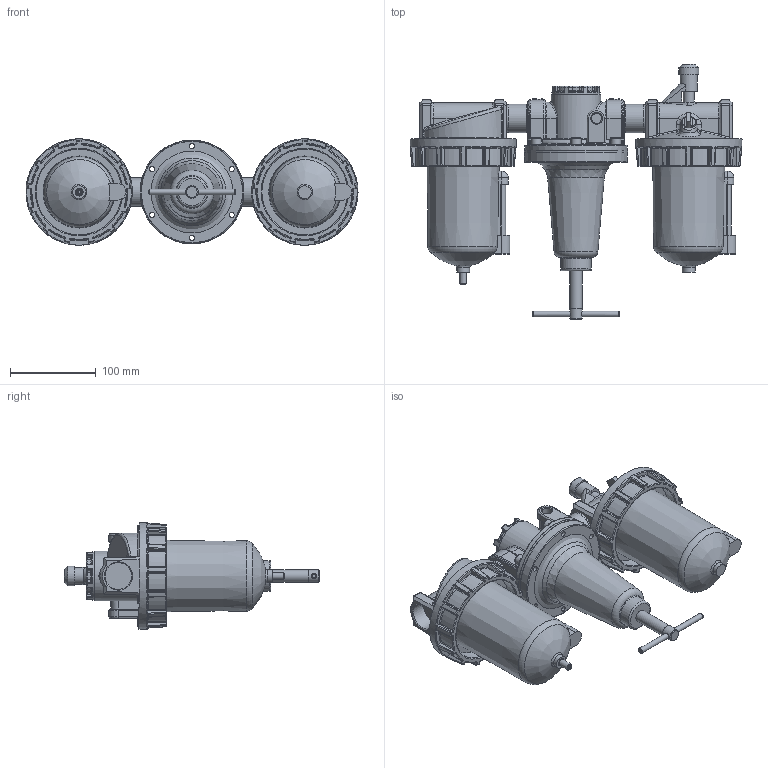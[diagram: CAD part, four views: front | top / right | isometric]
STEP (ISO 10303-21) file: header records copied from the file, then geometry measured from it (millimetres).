
FILE_DESCRIPTION((''),'2;1');
FILE_NAME('U:\AirCom-Produktdokumentation\Wartungseinheiten\C630\Zeichnungen\CAD-Aircom\3D\B-C630-08FRL-W.stp','2013-10-16T15:53:42',('Frank Schroers'),(''),'Autodesk Inventor 2008','Autodesk Inventor 2008','');
FILE_SCHEMA(('AUTOMOTIVE_DESIGN { 1 0 10303 214 1 1 1 1 }'));
Length unit declared in the file: millimetre
Products named in the file (7): B-C630-08FRL-W; B-F602-08W; B-SA600Y-71-Verschluss; B-L606-08W; B-R119-08x; Gewinderohr-1
Assembly tree (7 placements, depth 3):
  B-C630-08FRL-W
    B-F602-08W
      B-SA600Y-71-Verschluss
      B-F602-08W
    B-L606-08W
    B-R119-08x
    Gewinderohr-1  x2
Bounding box: 386.9 x 297.5 x 123.96 mm (x, y, z)
Volume: 3073035.1 mm3; surface area: 292864.3 mm2
Topology: 6 solids, 6 shells, 1555 faces, 3791 edges, 2226 vertices
Faces by surface type: cylinder 429, plane 403, bspline 330, torus 209, cone 102, sphere 82
Full cylindrical faces by diameter (mm): 2.049 x1, 2.951 x1, 3.32 x1, 4.767 x1, 6 x6, 6.5 x2, 7.319 x1, 7.792 x1, 9.303 x1, 11.6 x2, 11.8 x2, 12 x1, 12.6 x1, 14.2 x1, 14.5 x1, 15 x2, 16 x2, 20 x1, 23.2 x1, 26.9 x2, 30.6 x2, 31 x4, 32 x4, 33 x2, 36 x1, 40 x1, 56.5 x1, 58 x1, 100 x2, 120 x2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
Entity records: 65407 total; most frequent: CARTESIAN_POINT 31507, ORIENTED_EDGE 7138, DIRECTION 6972, EDGE_CURVE 3569, AXIS2_PLACEMENT_3D 2976, VERTEX_POINT 2180, EDGE_LOOP 1701, CIRCLE 1655
